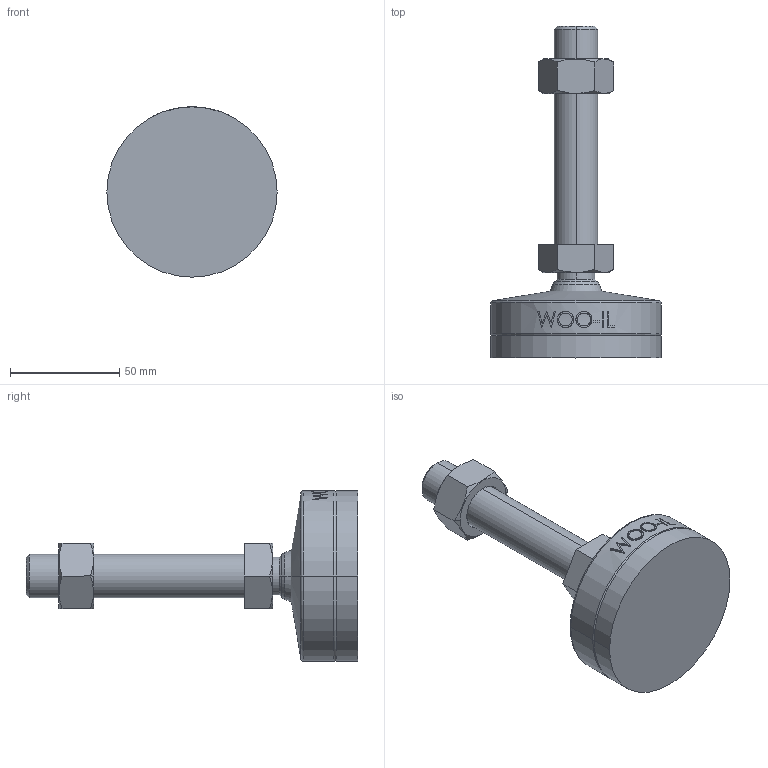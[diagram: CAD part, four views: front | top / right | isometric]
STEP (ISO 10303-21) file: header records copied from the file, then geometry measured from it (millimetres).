
FILE_DESCRIPTION (( 'STEP AP214' ), '1' );
FILE_NAME ('MFNR78-M20-100.step', '2021-02-22T09:08:28', ( '' ), ( '' ), 'SwSTEP 2.0', 'SolidWorks 2019', '' );
FILE_SCHEMA (( 'AUTOMOTIVE_DESIGN' ));
Length unit declared in the file: millimetre
Products named in the file (2): MFNR78-M20-100
Bounding box: 78 x 152 x 78 mm (x, y, z)
Volume: 185604.3 mm3; surface area: 28821.9 mm2
Topology: 2 solids, 2 shells, 105 faces, 245 edges, 156 vertices
Faces by surface type: plane 47, cone 18, cylinder 18, bspline 16, torus 4, sphere 2
Entity records: 4529 total; most frequent: CARTESIAN_POINT 2192, ORIENTED_EDGE 490, DIRECTION 437, EDGE_CURVE 245, AXIS2_PLACEMENT_3D 167, VERTEX_POINT 156, EDGE_LOOP 119, FACE_OUTER_BOUND 105
